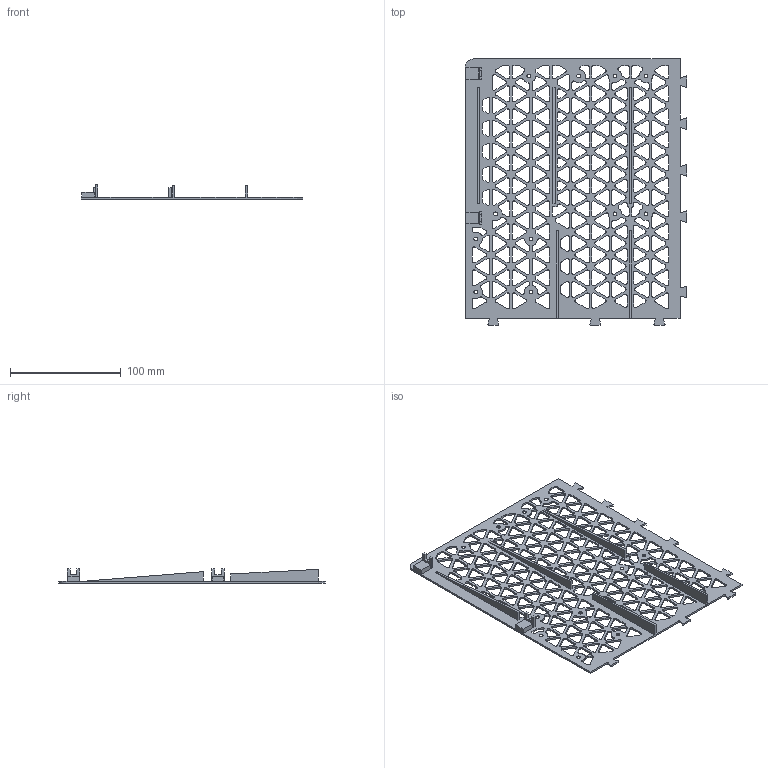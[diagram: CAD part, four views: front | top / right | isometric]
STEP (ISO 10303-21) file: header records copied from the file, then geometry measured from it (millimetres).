
FILE_DESCRIPTION(('Open CASCADE Model'),'2;1');
FILE_NAME('cover_RL','2026-11-19T00:45:42',('Author'),('Open CASCADE'), 'Open CASCADE STEP processor 8.0','build123d','Unknown');
FILE_SCHEMA(('AUTOMOTIVE_DESIGN { 1 0 10303 214 1 1 1 1 }'));
Products named in the file (1): cover_RL
Bounding box: 200.07 x 240.49 x 12.77 mm (x, y, z)
Volume: 47089.1 mm3; surface area: 71702 mm2
Topology: 1 solids, 1 shells, 1443 faces, 4288 edges, 2855 vertices
Faces by surface type: plane 718, cylinder 714, cone 11
Full cylindrical faces by diameter (mm): 3.4 x11, 10.5 x1
Entity records: 106768 total; most frequent: CARTESIAN_POINT 28343, DIRECTION 13021, ORIENTED_EDGE 8576, PCURVE 8576, DEFINITIONAL_REPRESENTATION 8576, LINE 7229, VECTOR 7229, EDGE_CURVE 4288
